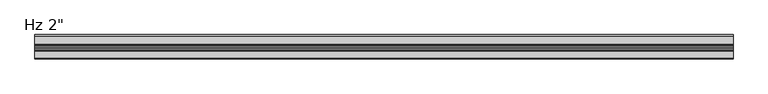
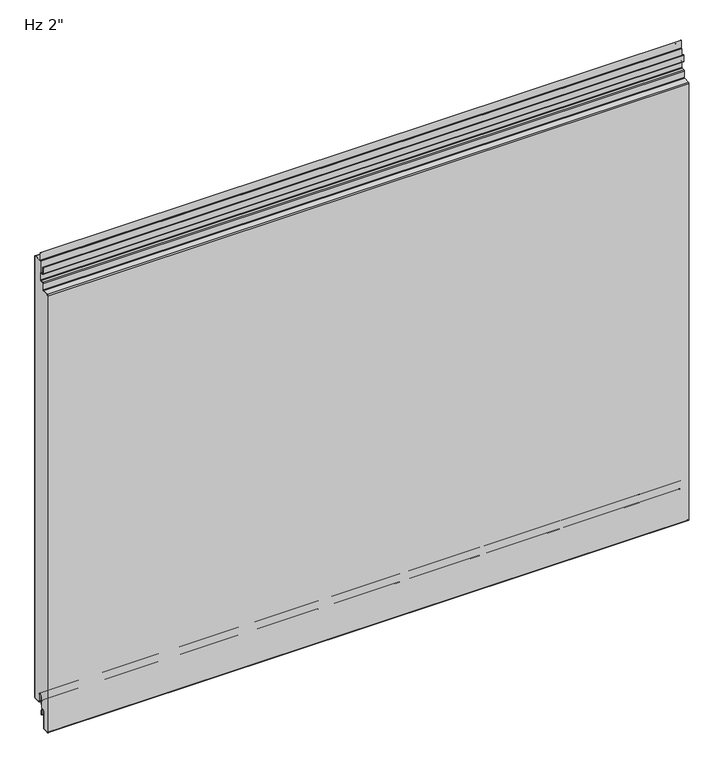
"""IFC4 building model written with IfcOpenShell, lengths in millimetres: plate geometry."""

from ifc_helpers import new_model, si_unit, point, frame, frame_2d, origin, place, context, project, spatial, polyline, circle_curve, ellipse_curve, trimmed, segment, composite_curve, outline, extrude, source, transform, mapped, element, save
from ifc_brep_helpers import plane_surface, cylinder_surface, revolved_surface, extruded_surface, advanced_brep


def plate_749ad104(model_context):
    return source(origin(), model_context, "Body", "SolidModel", [
        extrude(outline(composite_curve([segment(polyline([(-22.8125, 1021.7620957), (-22.8125, 1065.00625), (-2.38125, 1065.00625)]), True, "CONTINUOUS"), segment(trimmed(circle_curve(frame_2d((-2.38125, 1063.625)), 1.38125), [point((-2.38125, 1065.00625))], [point((-1.0, 1063.625))], False, "CARTESIAN"), True, "CONTINUOUS"), segment(polyline([(-1.0, 1063.625), (-1.0, 3.175)]), True, "CONTINUOUS"), segment(trimmed(circle_curve(frame_2d((-2.38125, 3.175)), 1.38125), [point((-1.0, 3.175))], [point((-2.38125, 1.79375))], False, "CARTESIAN"), True, "CONTINUOUS"), segment(polyline([(-2.38125, 1.79375), (-15.08125, 1.79375)]), True, "CONTINUOUS"), segment(trimmed(circle_curve(frame_2d((-15.08125, 3.175)), 1.38125), [point((-15.08125, 1.79375))], [point((-16.4625, 3.175))], False, "CARTESIAN"), True, "CONTINUOUS"), segment(polyline([(-16.4625, 3.175), (-16.4625, 19.05)]), True, "CONTINUOUS"), segment(trimmed(circle_curve(frame_2d((-21.43125, 19.05)), 4.96875), [point((-16.4625, 19.05))], [point((-26.4, 19.05))], True, "CARTESIAN"), True, "CONTINUOUS"), segment(polyline([(-26.4, 19.05), (-26.4, -6.9375), (-30.95625, -6.9375)]), True, "CONTINUOUS"), segment(trimmed(circle_curve(frame_2d((-30.95625, -11.90625)), 4.96875), [point((-30.95625, -6.9375))], [point((-35.925, -11.90625))], True, "CARTESIAN"), True, "CONTINUOUS"), segment(polyline([(-35.925, -11.90625), (-35.925, -50.0895546)]), True, "CONTINUOUS"), segment(trimmed(circle_curve(frame_2d((-37.30625, -50.0895546)), 1.38125), [point((-35.925, -50.0895546))], [point((-37.233961, -51.4689117))], False, "CARTESIAN"), True, "CONTINUOUS"), segment(polyline([(-37.233961, -51.4689117), (-48.346461, -52.0512931)]), True, "CONTINUOUS"), segment(trimmed(circle_curve(frame_2d((-48.41875, -50.6719361)), 1.38125), [point((-48.346461, -52.0512931))], [point((-49.8, -50.6719361))], False, "CARTESIAN"), True, "CONTINUOUS"), segment(polyline([(-49.8, -50.6719361), (-49.8, 998.6447607)]), True, "CONTINUOUS"), segment(trimmed(circle_curve(frame_2d((-48.41875, 998.6447607)), 1.38125), [point((-49.8, 998.6447607))], [point((-48.491039, 1000.0241177))], False, "CARTESIAN"), True, "CONTINUOUS"), segment(polyline([(-48.491039, 1000.0241177), (-34.7895807, 1000.7421807)]), True, "CONTINUOUS"), segment(trimmed(circle_curve(frame_2d((-34.925, 1003.3261347)), 2.5875), [point((-34.7895807, 1000.7421807))], [point((-32.3375, 1003.3261347))], True, "CARTESIAN"), True, "CONTINUOUS"), segment(polyline([(-32.3375, 1003.3261347), (-32.3375, 1017.4967085)]), True, "CONTINUOUS"), segment(trimmed(circle_curve(frame_2d((-30.95625, 1017.4967085)), 1.38125), [point((-32.3375, 1017.4967085))], [point((-31.028539, 1018.8760655))], False, "CARTESIAN"), True, "CONTINUOUS"), segment(polyline([(-31.028539, 1018.8760655), (-25.2645807, 1019.1781418)]), True, "CONTINUOUS"), segment(trimmed(circle_curve(frame_2d((-25.4, 1021.7620957)), 2.5875), [point((-25.2645807, 1019.1781418))], [point((-22.8125, 1021.7620957))], True, "CARTESIAN"), True, "CONTINUOUS")], self_intersect=False)), frame((-730.0, 0.0, 0.0), z_axis=(1.0, 0.0, 0.0), x_axis=(0.0, 1.0, 0.0)), (0.0, 0.0, 1.0), 1460.0),
        extrude(outline(composite_curve([segment(polyline([(-25.4, 0.79375), (-26.4, 0.79375), (-26.4, 19.05)]), True, "CONTINUOUS"), segment(trimmed(circle_curve(frame_2d((-21.43125, 19.05)), 4.96875), [point((-26.4, 19.05))], [point((-16.4625, 19.05))], False, "CARTESIAN"), True, "CONTINUOUS"), segment(polyline([(-16.4625, 19.05), (-16.4625, 3.175)]), True, "CONTINUOUS"), segment(trimmed(circle_curve(frame_2d((-15.08125, 3.175)), 1.38125), [point((-16.4625, 3.175))], [point((-15.08125, 1.79375))], True, "CARTESIAN"), True, "CONTINUOUS"), segment(polyline([(-15.08125, 1.79375), (-2.38125, 1.79375)]), True, "CONTINUOUS"), segment(trimmed(circle_curve(frame_2d((-2.38125, 3.175)), 1.38125), [point((-2.38125, 1.79375))], [point((-1.0, 3.175))], True, "CARTESIAN"), True, "CONTINUOUS"), segment(polyline([(-1.0, 3.175), (-1.0, 1063.625)]), True, "CONTINUOUS"), segment(trimmed(circle_curve(frame_2d((-2.38125, 1063.625)), 1.38125), [point((-1.0, 1063.625))], [point((-2.38125, 1065.00625))], True, "CARTESIAN"), True, "CONTINUOUS"), segment(polyline([(-2.38125, 1065.00625), (-19.446875, 1065.00625)]), True, "CONTINUOUS"), segment(trimmed(circle_curve(frame_2d((-19.446875, 1067.59375)), 2.5875), [point((-19.446875, 1065.00625))], [point((-22.034375, 1067.59375))], False, "CARTESIAN"), True, "CONTINUOUS"), segment(polyline([(-22.034375, 1067.59375), (-22.034375, 1085.05625), (-21.034375, 1085.05625), (-21.034375, 1067.59375)]), True, "CONTINUOUS"), segment(trimmed(circle_curve(frame_2d((-19.446875, 1067.59375)), 1.5875), [point((-21.034375, 1067.59375))], [point((-19.446875, 1066.00625))], True, "CARTESIAN"), True, "CONTINUOUS"), segment(polyline([(-19.446875, 1066.00625), (-2.38125, 1066.00625)]), True, "CONTINUOUS"), segment(trimmed(circle_curve(frame_2d((-2.38125, 1063.625)), 2.38125), [point((-2.38125, 1066.00625))], [point((0.0, 1063.625))], False, "CARTESIAN"), True, "CONTINUOUS"), segment(polyline([(0.0, 1063.625), (0.0, 3.175)]), True, "CONTINUOUS"), segment(trimmed(circle_curve(frame_2d((-2.38125, 3.175)), 2.38125), [point((0.0, 3.175))], [point((-2.38125, 0.79375))], False, "CARTESIAN"), True, "CONTINUOUS"), segment(polyline([(-2.38125, 0.79375), (-15.08125, 0.79375)]), True, "CONTINUOUS"), segment(trimmed(circle_curve(frame_2d((-15.08125, 3.175)), 2.38125), [point((-15.08125, 0.79375))], [point((-17.4625, 3.175))], False, "CARTESIAN"), True, "CONTINUOUS"), segment(polyline([(-17.4625, 3.175), (-17.4625, 19.05)]), True, "CONTINUOUS"), segment(trimmed(circle_curve(frame_2d((-21.43125, 19.05)), 3.96875), [point((-17.4625, 19.05))], [point((-25.4, 19.05))], True, "CARTESIAN"), True, "CONTINUOUS"), segment(polyline([(-25.4, 19.05), (-25.4, 0.79375)]), True, "CONTINUOUS")], self_intersect=False)), frame((-730.0, 0.0, 0.0), z_axis=(1.0, 0.0, 0.0), x_axis=(0.0, 1.0, 0.0)), (0.0, 0.0, 1.0), 1460.0),
        advanced_brep(
        [(-730.0, -25.4, -23.2314549), (-730.0, -26.9875, -23.2314549), (-730.0, -26.9875, -11.9205174), (-730.0, -34.925, -11.9205174), (-730.0, -34.925, -50.1038221), (-730.0, -37.181625, -52.4818086), (-730.0, -48.294125, -53.0641901), (-730.0, -50.8, -50.6862035), (-730.0, -50.8, 998.6447607), (-730.0, -48.543375, 1001.0227473), (-730.0, -34.8419167, 1001.7408103), (-730.0, -33.3375, 1003.3261347), (-730.0, -33.3375, 1017.4824411), (-730.0, -31.080875, 1019.8604276), (-730.0, -25.3169167, 1020.1625039), (-730.0, -23.8125, 1021.7478283), (-730.0, -23.8125, 1036.6232326), (-730.0, -25.4, 1038.2107326), (-730.0, -29.5671875, 1038.2107326), (-730.0, -31.9484375, 1040.5919826), (-730.0, -31.9484375, 1055.0836032), (-730.0, -30.1546875, 1055.0836032), (-730.0, -30.1546875, 1045.3544826), (-730.0, -30.9484375, 1045.3544826), (-730.0, -30.9484375, 1040.5919826), (-730.0, -29.5671875, 1039.2107326), (-730.0, -25.4, 1039.2107326), (-730.0, -22.8125, 1036.6232326), (-730.0, -22.8125, 1021.7478283), (-730.0, -25.2645807, 1019.1638744), (-730.0, -31.028539, 1018.8617981), (-730.0, -32.3375, 1017.4824411), (-730.0, -32.3375, 1003.3261347), (-730.0, -34.7895807, 1000.7421807), (-730.0, -48.491039, 1000.0241177), (-730.0, -49.8, 998.6447607), (-730.0, -49.8, -50.6862035), (-730.0, -48.346461, -52.0655606), (-730.0, -37.233961, -51.4831791), (-730.0, -35.925, -50.1038221), (-730.0, -35.925, -11.9205174), (-730.0, -25.9875, -11.9205174), (-730.0, -26.19375, -13.5080174), (-730.0, -25.4, -13.5080174), (730.0, -25.4, -23.2314549), (730.0, -25.4, -13.5080174), (730.0, -26.19375, -13.5080174), (730.0, -25.9875, -11.9205174), (730.0, -35.925, -11.9205174), (730.0, -35.925, -50.1038221), (730.0, -37.233961, -51.4831791), (730.0, -48.346461, -52.0655606), (730.0, -49.8, -50.6862035), (730.0, -49.8, 998.6447607), (730.0, -48.491039, 1000.0241177), (730.0, -34.7895807, 1000.7421807), (730.0, -32.3375, 1003.3261347), (730.0, -32.3375, 1017.4824411), (730.0, -31.028539, 1018.8617981), (730.0, -25.2645807, 1019.1638744), (730.0, -22.8125, 1021.7478283), (730.0, -22.8125, 1036.6232326), (730.0, -25.4, 1039.2107326), (730.0, -29.5671875, 1039.2107326), (730.0, -30.9484375, 1040.5919826), (730.0, -30.9484375, 1045.3544826), (730.0, -30.1546875, 1045.3544826), (730.0, -30.1546875, 1055.0836032), (730.0, -31.9484375, 1055.0836032), (730.0, -31.9484375, 1040.5919826), (730.0, -29.5671875, 1038.2107326), (730.0, -25.4, 1038.2107326), (730.0, -23.8125, 1036.6232326), (730.0, -23.8125, 1021.7478283), (730.0, -25.3169167, 1020.1625039), (730.0, -31.080875, 1019.8604276), (730.0, -33.3375, 1017.4824411), (730.0, -33.3375, 1003.3261347), (730.0, -34.8419167, 1001.7408103), (730.0, -48.543375, 1001.0227473), (730.0, -50.8, 998.6447607), (730.0, -50.8, -50.6862035), (730.0, -48.294125, -53.0641901), (730.0, -37.181625, -52.4818086), (730.0, -34.925, -50.1038221), (730.0, -34.925, -11.9205174), (730.0, -26.9875, -11.9205174), (730.0, -26.9875, -23.2314549)],
        [
            (0, 1, circle_curve(frame((-730.0, -26.19375, -23.2314549), z_axis=(-1.0, 0.0, 0.0), x_axis=(0.0, 0.0, -1.0)), 0.79375)),
            (1, 2),
            (2, 3, circle_curve(frame((-730.0, -30.95625, -11.9205174), z_axis=(1.0, 0.0, 0.0), x_axis=(0.0, 0.0, -1.0)), 3.96875)),
            (3, 4),
            (4, 5, circle_curve(frame((-730.0, -37.30625, -50.1038221), z_axis=(-1.0, 0.0, 0.0), x_axis=(0.0, 0.0, -1.0)), 2.38125)),
            (5, 6),
            (6, 7, circle_curve(frame((-730.0, -48.41875, -50.6862035), z_axis=(-1.0, 0.0, 0.0), x_axis=(0.0, 0.0, -1.0)), 2.38125)),
            (7, 8),
            (8, 9, circle_curve(frame((-730.0, -48.41875, 998.6447607), z_axis=(-1.0, 0.0, 0.0), x_axis=(0.0, 0.0, -1.0)), 2.38125)),
            (9, 10),
            (10, 11, circle_curve(frame((-730.0, -34.925, 1003.3261347), z_axis=(1.0, 0.0, 0.0), x_axis=(0.0, 0.0, -1.0)), 1.5875)),
            (11, 12),
            (12, 13, circle_curve(frame((-730.0, -30.95625, 1017.4824411), z_axis=(-1.0, 0.0, 0.0), x_axis=(0.0, 0.0, -1.0)), 2.38125)),
            (13, 14),
            (14, 15, circle_curve(frame((-730.0, -25.4, 1021.7478283), z_axis=(1.0, 0.0, 0.0), x_axis=(0.0, 0.0, -1.0)), 1.5875)),
            (15, 16),
            (16, 17, circle_curve(frame((-730.0, -25.4, 1036.6232326), z_axis=(1.0, 0.0, 0.0), x_axis=(0.0, 0.0, -1.0)), 1.5875)),
            (17, 18),
            (18, 19, circle_curve(frame((-730.0, -29.5671875, 1040.5919826), z_axis=(-1.0, 0.0, 0.0), x_axis=(0.0, 0.0, -1.0)), 2.38125)),
            (19, 20),
            (20, 21, ellipse_curve(frame((-730.0, -31.0515625, 1055.0836032), z_axis=(-1.0, 0.0, 0.0), x_axis=(0.0, 1.0, 0.0)), 0.896875, 0.7852275)),
            (21, 22),
            (22, 23),
            (23, 24),
            (24, 25, circle_curve(frame((-730.0, -29.5671875, 1040.5919826), z_axis=(1.0, 0.0, 0.0), x_axis=(0.0, 0.0, -1.0)), 1.38125)),
            (25, 26),
            (26, 27, circle_curve(frame((-730.0, -25.4, 1036.6232326), z_axis=(-1.0, 0.0, 0.0), x_axis=(0.0, 0.0, -1.0)), 2.5875)),
            (27, 28),
            (28, 29, circle_curve(frame((-730.0, -25.4, 1021.7478283), z_axis=(-1.0, 0.0, 0.0), x_axis=(0.0, 0.0, -1.0)), 2.5875)),
            (29, 30),
            (30, 31, circle_curve(frame((-730.0, -30.95625, 1017.4824411), z_axis=(1.0, 0.0, 0.0), x_axis=(0.0, 0.0, -1.0)), 1.38125)),
            (31, 32),
            (32, 33, circle_curve(frame((-730.0, -34.925, 1003.3261347), z_axis=(-1.0, 0.0, 0.0), x_axis=(0.0, 0.0, -1.0)), 2.5875)),
            (33, 34),
            (34, 35, circle_curve(frame((-730.0, -48.41875, 998.6447607), z_axis=(1.0, 0.0, 0.0), x_axis=(0.0, 0.0, -1.0)), 1.38125)),
            (35, 36),
            (36, 37, circle_curve(frame((-730.0, -48.41875, -50.6862035), z_axis=(1.0, 0.0, 0.0), x_axis=(0.0, 0.0, -1.0)), 1.38125)),
            (37, 38),
            (38, 39, circle_curve(frame((-730.0, -37.30625, -50.1038221), z_axis=(1.0, 0.0, 0.0), x_axis=(0.0, 0.0, -1.0)), 1.38125)),
            (39, 40),
            (40, 41, circle_curve(frame((-730.0, -30.95625, -11.9205174), z_axis=(-1.0, 0.0, 0.0), x_axis=(0.0, 0.0, -1.0)), 4.96875)),
            (41, 42),
            (42, 43),
            (43, 0),
            (44, 45),
            (45, 46),
            (46, 47),
            (47, 48, circle_curve(frame((730.0, -30.95625, -11.9205174), z_axis=(1.0, 0.0, 0.0), x_axis=(0.0, 0.0, -1.0)), 4.96875)),
            (48, 49),
            (49, 50, circle_curve(frame((730.0, -37.30625, -50.1038221), z_axis=(-1.0, 0.0, 0.0), x_axis=(0.0, 0.0, -1.0)), 1.38125)),
            (50, 51),
            (51, 52, circle_curve(frame((730.0, -48.41875, -50.6862035), z_axis=(-1.0, 0.0, 0.0), x_axis=(0.0, 0.0, -1.0)), 1.38125)),
            (52, 53),
            (53, 54, circle_curve(frame((730.0, -48.41875, 998.6447607), z_axis=(-1.0, 0.0, 0.0), x_axis=(0.0, 0.0, -1.0)), 1.38125)),
            (54, 55),
            (55, 56, circle_curve(frame((730.0, -34.925, 1003.3261347), z_axis=(1.0, 0.0, 0.0), x_axis=(0.0, 0.0, -1.0)), 2.5875)),
            (56, 57),
            (57, 58, circle_curve(frame((730.0, -30.95625, 1017.4824411), z_axis=(-1.0, 0.0, 0.0), x_axis=(0.0, 0.0, -1.0)), 1.38125)),
            (58, 59),
            (59, 60, circle_curve(frame((730.0, -25.4, 1021.7478283), z_axis=(1.0, 0.0, 0.0), x_axis=(0.0, 0.0, -1.0)), 2.5875)),
            (60, 61),
            (61, 62, circle_curve(frame((730.0, -25.4, 1036.6232326), z_axis=(1.0, 0.0, 0.0), x_axis=(0.0, 0.0, -1.0)), 2.5875)),
            (62, 63),
            (63, 64, circle_curve(frame((730.0, -29.5671875, 1040.5919826), z_axis=(-1.0, 0.0, 0.0), x_axis=(0.0, 0.0, -1.0)), 1.38125)),
            (64, 65),
            (65, 66),
            (66, 67),
            (67, 68, ellipse_curve(frame((730.0, -31.0515625, 1055.0836032), z_axis=(1.0, 0.0, 0.0), x_axis=(0.0, 1.0, 0.0)), 0.896875, 0.7852275)),
            (68, 69),
            (69, 70, circle_curve(frame((730.0, -29.5671875, 1040.5919826), z_axis=(1.0, 0.0, 0.0), x_axis=(0.0, 0.0, -1.0)), 2.38125)),
            (70, 71),
            (71, 72, circle_curve(frame((730.0, -25.4, 1036.6232326), z_axis=(-1.0, 0.0, 0.0), x_axis=(0.0, 0.0, -1.0)), 1.5875)),
            (72, 73),
            (73, 74, circle_curve(frame((730.0, -25.4, 1021.7478283), z_axis=(-1.0, 0.0, 0.0), x_axis=(0.0, 0.0, -1.0)), 1.5875)),
            (74, 75),
            (75, 76, circle_curve(frame((730.0, -30.95625, 1017.4824411), z_axis=(1.0, 0.0, 0.0), x_axis=(0.0, 0.0, -1.0)), 2.38125)),
            (76, 77),
            (77, 78, circle_curve(frame((730.0, -34.925, 1003.3261347), z_axis=(-1.0, 0.0, 0.0), x_axis=(0.0, 0.0, -1.0)), 1.5875)),
            (78, 79),
            (79, 80, circle_curve(frame((730.0, -48.41875, 998.6447607), z_axis=(1.0, 0.0, 0.0), x_axis=(0.0, 0.0, -1.0)), 2.38125)),
            (80, 81),
            (81, 82, circle_curve(frame((730.0, -48.41875, -50.6862035), z_axis=(1.0, 0.0, 0.0), x_axis=(0.0, 0.0, -1.0)), 2.38125)),
            (82, 83),
            (83, 84, circle_curve(frame((730.0, -37.30625, -50.1038221), z_axis=(1.0, 0.0, 0.0), x_axis=(0.0, 0.0, -1.0)), 2.38125)),
            (84, 85),
            (85, 86, circle_curve(frame((730.0, -30.95625, -11.9205174), z_axis=(-1.0, 0.0, 0.0), x_axis=(0.0, 0.0, -1.0)), 3.96875)),
            (86, 87),
            (87, 44, circle_curve(frame((730.0, -26.19375, -23.2314549), z_axis=(1.0, 0.0, 0.0), x_axis=(0.0, 0.0, -1.0)), 0.79375)),
            (36, 52),
            (51, 37),
            (50, 38),
            (49, 39),
            (48, 40),
            (47, 41),
            (42, 46),
            (45, 43),
            (22, 66),
            (65, 23),
            (21, 67),
            (20, 68),
            (34, 54),
            (53, 35),
            (32, 56),
            (55, 33),
            (30, 58),
            (57, 31),
            (28, 60),
            (59, 29),
            (24, 64),
            (63, 25),
            (26, 62),
            (61, 27),
            (19, 69),
            (17, 71),
            (70, 18),
            (15, 73),
            (72, 16),
            (13, 75),
            (74, 14),
            (11, 77),
            (76, 12),
            (9, 79),
            (78, 10),
            (7, 81),
            (80, 8),
            (5, 83),
            (82, 6),
            (3, 85),
            (84, 4),
            (1, 87),
            (86, 2),
            (44, 0),
        ],
        [
            plane_surface(frame((-730.0, -50.8, 533.4), z_axis=(-1.0, 0.0, 0.0), x_axis=(0.0, -1.0, 0.0))),
            plane_surface(frame((730.0, -50.8, 533.4), z_axis=(1.0, 0.0, 0.0), x_axis=(0.0, -1.0, 0.0))),
            revolved_surface(polyline([(730.0, -48.41875, -52.0674535), (-730.0, -48.41875, -52.0674535)]), (-730.0, -48.41875, -50.6862035), (1.0, 0.0, 0.0)),
            plane_surface(frame((-730.0, -37.233961, -51.4831791), z_axis=(0.0, -0.05233595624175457, 0.9986295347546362), x_axis=(1.0, 0.0, 0.0))),
            revolved_surface(polyline([(730.0, -37.30625, -51.485072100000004), (-730.0, -37.30625, -51.485072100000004)]), (-730.0, -37.30625, -50.1038221), (1.0, 0.0, 0.0)),
            plane_surface(frame((-730.0, -35.925, -11.9205174), z_axis=(0.0, -1.0, 0.0), x_axis=(1.0, 0.0, 0.0))),
            cylinder_surface(frame((-730.0, -30.95625, -11.9205174), z_axis=(-1.0, 0.0, 0.0), x_axis=(0.0, 0.0, -1.0)), 4.96875),
            plane_surface(frame((-730.0, -25.4, -13.5080174), z_axis=(0.0, 0.0, 1.0), x_axis=(1.0, 0.0, 0.0))),
            plane_surface(frame((-730.0, -26.19375, -13.5080174), z_axis=(0.0, 0.9916655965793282, -0.1288384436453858), x_axis=(1.0, 0.0, 0.0))),
            plane_surface(frame((-730.0, -30.9484375, 1045.3544826), z_axis=(0.0, 0.0, -1.0), x_axis=(1.0, 0.0, 0.0))),
            plane_surface(frame((-730.0, -30.1546875, 1045.3544826), z_axis=(0.0, 1.0, 0.0), x_axis=(1.0, 0.0, 0.0))),
            extruded_surface(trimmed(ellipse_curve(frame((-730.0, -31.0515625, 1055.0836032), z_axis=(1.0, 0.0, 0.0), x_axis=(0.0, 1.0, 0.0)), 0.896875, 0.7852275), [point((-730.0, -30.1546875, 1055.0836032))], [point((-730.0, -31.9484375, 1055.0836032))], True, "CARTESIAN"), (1460.0, 0.0, 0.0), 1460.0),
            revolved_surface(polyline([(730.0, -48.41875, 997.2635107), (-730.0, -48.41875, 997.2635107)]), (-730.0, -48.41875, 998.6447607), (1.0, 0.0, 0.0)),
            cylinder_surface(frame((-730.0, -34.925, 1003.3261347), z_axis=(-1.0, 0.0, 0.0), x_axis=(0.0, 0.0, -1.0)), 2.5875),
            plane_surface(frame((-730.0, -48.491039, 1000.0241177), z_axis=(0.0, 0.05233595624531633, -0.9986295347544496), x_axis=(1.0, 0.0, 0.0))),
            plane_surface(frame((-730.0, -49.8, -50.6862035), z_axis=(0.0, 1.0, 0.0), x_axis=(1.0, 0.0, 0.0))),
            revolved_surface(polyline([(730.0, -30.95625, 1016.1011910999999), (-730.0, -30.95625, 1016.1011910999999)]), (-730.0, -30.95625, 1017.4824411), (1.0, 0.0, 0.0)),
            cylinder_surface(frame((-730.0, -25.4, 1021.7478283), z_axis=(-1.0, 0.0, 0.0), x_axis=(0.0, 0.0, -1.0)), 2.5875),
            plane_surface(frame((-730.0, -31.028539, 1018.8617981), z_axis=(0.0, 0.052335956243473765, -0.9986295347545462), x_axis=(1.0, 0.0, 0.0))),
            plane_surface(frame((-730.0, -32.3375, 1003.3261347), z_axis=(0.0, 1.0, 0.0), x_axis=(1.0, 0.0, 0.0))),
            revolved_surface(polyline([(730.0, -29.5671875, 1039.2107326), (-730.0, -29.5671875, 1039.2107326)]), (-730.0, -29.5671875, 1040.5919826), (1.0, 0.0, 0.0)),
            cylinder_surface(frame((-730.0, -25.4, 1036.6232326), z_axis=(-1.0, 0.0, 0.0), x_axis=(0.0, 0.0, -1.0)), 2.5875),
            plane_surface(frame((-730.0, -25.4, 1039.2107326), z_axis=(0.0, 0.0, 1.0), x_axis=(1.0, 0.0, 0.0))),
            plane_surface(frame((-730.0, -30.9484375, 1040.5919826), z_axis=(0.0, 1.0, 0.0), x_axis=(1.0, 0.0, 0.0))),
            plane_surface(frame((-730.0, -31.9484375, 1055.0836032), z_axis=(0.0, -1.0, 0.0), x_axis=(1.0, 0.0, 0.0))),
            plane_surface(frame((-730.0, -29.5671875, 1038.2107326), z_axis=(0.0, 0.0, -1.0), x_axis=(1.0, 0.0, 0.0))),
            cylinder_surface(frame((-730.0, -29.5671875, 1040.5919826), z_axis=(-1.0, 0.0, 0.0), x_axis=(0.0, 0.0, -1.0)), 2.38125),
            plane_surface(frame((-730.0, -22.8125, 1021.7478283), z_axis=(0.0, 1.0, 0.0), x_axis=(1.0, 0.0, 0.0))),
            plane_surface(frame((-730.0, -23.8125, 1036.6232326), z_axis=(0.0, -1.0, 0.0), x_axis=(1.0, 0.0, 0.0))),
            plane_surface(frame((-730.0, -25.3169167, 1020.1625039), z_axis=(0.0, -0.05233595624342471, 0.9986295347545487), x_axis=(1.0, 0.0, 0.0))),
            revolved_surface(polyline([(730.0, -25.4, 1020.1603283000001), (-730.0, -25.4, 1020.1603283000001)]), (-730.0, -25.4, 1021.7478283), (1.0, 0.0, 0.0)),
            revolved_surface(polyline([(730.0, -25.4, 1035.0357325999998), (-730.0, -25.4, 1035.0357325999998)]), (-730.0, -25.4, 1036.6232326), (1.0, 0.0, 0.0)),
            plane_surface(frame((-730.0, -33.3375, 1017.4824411), z_axis=(0.0, -1.0, 0.0), x_axis=(1.0, 0.0, 0.0))),
            plane_surface(frame((-730.0, -34.8419167, 1001.7408103), z_axis=(0.0, -0.05233595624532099, 0.9986295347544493), x_axis=(1.0, 0.0, 0.0))),
            revolved_surface(polyline([(730.0, -34.925, 1001.7386347), (-730.0, -34.925, 1001.7386347)]), (-730.0, -34.925, 1003.3261347), (1.0, 0.0, 0.0)),
            cylinder_surface(frame((-730.0, -30.95625, 1017.4824411), z_axis=(-1.0, 0.0, 0.0), x_axis=(0.0, 0.0, -1.0)), 2.38125),
            plane_surface(frame((-730.0, -50.8, 998.6447607), z_axis=(0.0, -1.0, 0.0), x_axis=(1.0, 0.0, 0.0))),
            plane_surface(frame((-730.0, -48.294125, -53.0641901), z_axis=(0.0, 0.05233595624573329, -0.9986295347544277), x_axis=(1.0, 0.0, 0.0))),
            cylinder_surface(frame((-730.0, -48.41875, -50.6862035), z_axis=(-1.0, 0.0, 0.0), x_axis=(0.0, 0.0, -1.0)), 2.38125),
            cylinder_surface(frame((-730.0, -48.41875, 998.6447607), z_axis=(-1.0, 0.0, 0.0), x_axis=(0.0, 0.0, -1.0)), 2.38125),
            plane_surface(frame((-730.0, -34.925, -50.1038221), z_axis=(0.0, 1.0, 0.0), x_axis=(1.0, 0.0, 0.0))),
            plane_surface(frame((-730.0, -26.9875, -11.9205174), z_axis=(0.0, -1.0, 0.0), x_axis=(1.0, 0.0, 0.0))),
            revolved_surface(polyline([(730.0, -30.95625, -15.8892674), (-730.0, -30.95625, -15.8892674)]), (-730.0, -30.95625, -11.9205174), (1.0, 0.0, 0.0)),
            cylinder_surface(frame((-730.0, -37.30625, -50.1038221), z_axis=(-1.0, 0.0, 0.0), x_axis=(0.0, 0.0, -1.0)), 2.38125),
            plane_surface(frame((-730.0, -25.4, -23.2314549), z_axis=(0.0, 1.0, 0.0), x_axis=(1.0, 0.0, 0.0))),
            cylinder_surface(frame((-730.0, -26.19375, -23.2314549), z_axis=(-1.0, 0.0, 0.0), x_axis=(0.0, 0.0, -1.0)), 0.79375),
        ],
        [
            (0, [[1, 2, 3, 4, 5, 6, 7, 8, 9, 10, 11, 12, 13, 14, 15, 16, 17, 18, 19, 20, 21, 22, 23, 24, 25, 26, 27, 28, 29, 30, 31, 32, 33, 34, 35, 36, 37, 38, 39, 40, 41, 42, 43, 44]]),
            (1, [[45, 46, 47, 48, 49, 50, 51, 52, 53, 54, 55, 56, 57, 58, 59, 60, 61, 62, 63, 64, 65, 66, 67, 68, 69, 70, 71, 72, 73, 74, 75, 76, 77, 78, 79, 80, 81, 82, 83, 84, 85, 86, 87, 88]]),
            (2, [[89, -52, 90, -37]]),
            (3, [[-90, -51, 91, -38]]),
            (4, [[-91, -50, 92, -39]]),
            (5, [[-92, -49, 93, -40]]),
            (6, [[-93, -48, 94, -41]]),
            (7, [[95, -46, 96, -43]]),
            (8, [[-94, -47, -95, -42]]),
            (9, [[97, -66, 98, -23]]),
            (10, [[99, -67, -97, -22]]),
            (11, [[100, -68, -99, -21]]),
            (12, [[101, -54, 102, -35]]),
            (13, [[103, -56, 104, -33]]),
            (14, [[-104, -55, -101, -34]]),
            (15, [[-102, -53, -89, -36]]),
            (16, [[105, -58, 106, -31]]),
            (17, [[107, -60, 108, -29]]),
            (18, [[-108, -59, -105, -30]]),
            (19, [[-106, -57, -103, -32]]),
            (20, [[109, -64, 110, -25]]),
            (21, [[111, -62, 112, -27]]),
            (22, [[-110, -63, -111, -26]]),
            (23, [[-98, -65, -109, -24]]),
            (24, [[113, -69, -100, -20]]),
            (25, [[114, -71, 115, -18]]),
            (26, [[-115, -70, -113, -19]]),
            (27, [[-112, -61, -107, -28]]),
            (28, [[116, -73, 117, -16]]),
            (29, [[118, -75, 119, -14]]),
            (30, [[-119, -74, -116, -15]]),
            (31, [[-117, -72, -114, -17]]),
            (32, [[120, -77, 121, -12]]),
            (33, [[122, -79, 123, -10]]),
            (34, [[-123, -78, -120, -11]]),
            (35, [[-121, -76, -118, -13]]),
            (36, [[124, -81, 125, -8]]),
            (37, [[126, -83, 127, -6]]),
            (38, [[-127, -82, -124, -7]]),
            (39, [[-125, -80, -122, -9]]),
            (40, [[128, -85, 129, -4]]),
            (41, [[130, -87, 131, -2]]),
            (42, [[-131, -86, -128, -3]]),
            (43, [[-129, -84, -126, -5]]),
            (44, [[-96, -45, 132, -44]]),
            (45, [[-132, -88, -130, -1]]),
        ],
    ),
    ])


if __name__ == "__main__":
    model = new_model("IFC4")
    model_context = context("Model", 3, world=origin())
    ifc_project = project(units=[si_unit("LENGTHUNIT", "METRE", prefix="MILLI")], contexts=[model_context])
    site = spatial("IfcSite", under=ifc_project)
    building = spatial("IfcBuilding", under=site)
    placement = place(None, origin())
    plate_shape = plate_749ad104(model_context)
    element("IfcPlate", 1, ObjectType="KIP-42-DWHR-R19-CP-Hz-F : Hz 2\"", at=placement, inside=building, context=model_context, shape_type="MappedRepresentation", body=[
        mapped(plate_shape, transform((0.0, 0.0, 0.0), x_axis=(1.0, 0.0, 0.0), y_axis=(0.0, 1.0, 0.0), z_axis=(0.0, 0.0, 1.0))),
    ])
    save(model, "model.ifc")
